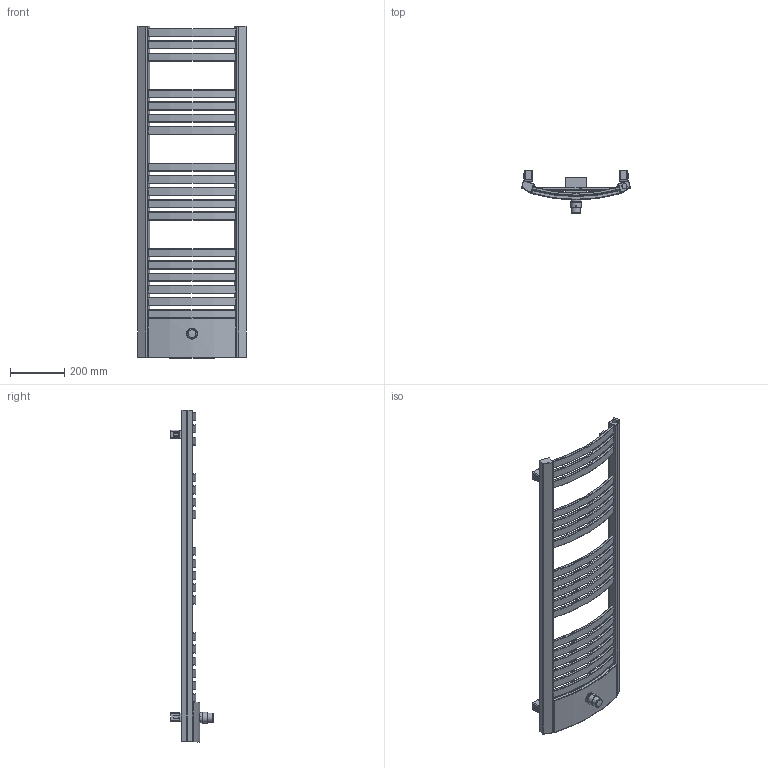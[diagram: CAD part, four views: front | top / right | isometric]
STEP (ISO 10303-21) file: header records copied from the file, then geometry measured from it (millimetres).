
FILE_DESCRIPTION((''),'2;1');
FILE_NAME('Z:\R\G\P\RGPH08 - Grzejnik Dexter pro\Work\Inventor\Dexter Pro v6.1\Marketing\STEP\DP-12-40-ZX.stp','2012-07-24T09:06:10',('PioRo'),(''),'Autodesk Inventor 2012','Autodesk Inventor 2012','');
FILE_SCHEMA(('AUTOMOTIVE_DESIGN { 1 0 10303 214 1 1 1 1 }'));
Length unit declared in the file: millimetre
Products named in the file (1): Część4
Bounding box: 399.78 x 158.23 x 1222 mm (x, y, z)
Volume: 5155880.1 mm3; surface area: 1004269.4 mm2
Topology: 1 solids, 3 shells, 595 faces, 1553 edges, 985 vertices
Faces by surface type: plane 257, cylinder 187, torus 111, bspline 32, cone 6, sphere 2
Full cylindrical faces by diameter (mm): 7 x3, 18.631 x3, 32.4 x1, 33 x1, 34 x1, 35 x1, 36 x1, 36.4 x1, 36.6 x1, 37.2 x1, 40 x1
Entity records: 20874 total; most frequent: CARTESIAN_POINT 5869, ORIENTED_EDGE 3046, DIRECTION 2905, EDGE_CURVE 1523, AXIS2_PLACEMENT_3D 1066, VERTEX_POINT 978, VECTOR 773, LINE 773
